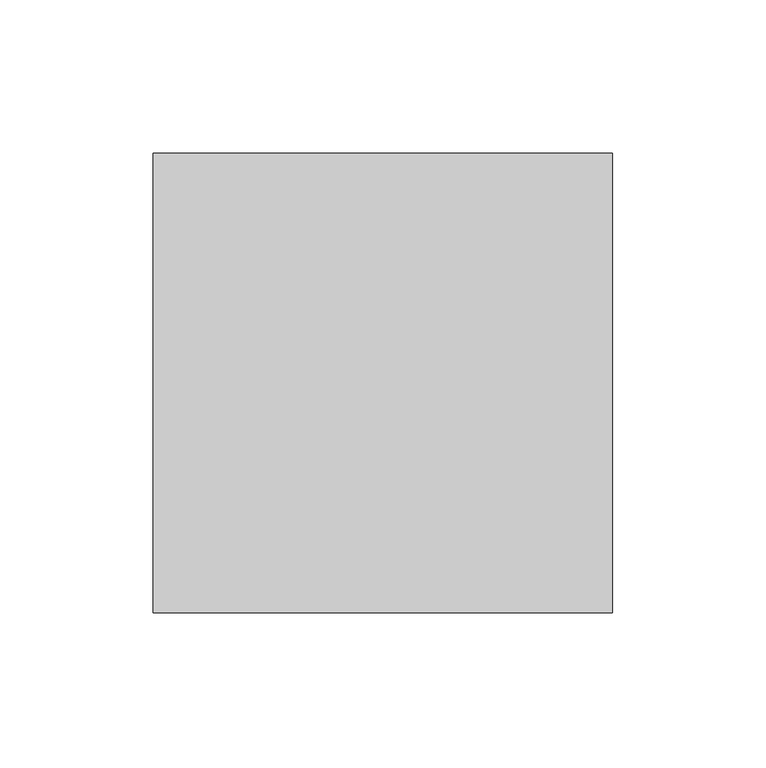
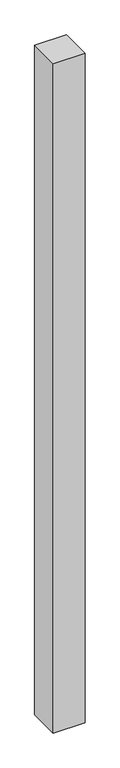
"""IFC4 building model written with IfcOpenShell, lengths in millimetres: member geometry, 四邊形角豎框 : 四邊形-鋁擠型料."""

from ifc_helpers import new_model, si_unit, frame, origin, place, context, project, spatial, polyline, outline, extrude, source, transform, mapped, element, save


def member_cc25a499(model_context):
    return source(origin(), model_context, "Body", "SweptSolid", [
        extrude(outline(polyline([(75.0, 75.0), (75.0, -75.0), (-75.0, -75.0), (-75.0, 75.0), (75.0, 75.0)])), frame((0.0, 0.0, -3330.0), z_axis=(0.0, 0.0, 1.0), x_axis=(1.0, 0.0, 0.0)), (0.0, 0.0, 1.0), 3330.0),
    ])


if __name__ == "__main__":
    model = new_model("IFC4")
    model_context = context("Model", 3, world=origin())
    ifc_project = project(units=[si_unit("LENGTHUNIT", "METRE", prefix="MILLI")], contexts=[model_context])
    site = spatial("IfcSite", under=ifc_project)
    building = spatial("IfcBuilding", under=site)
    placement = place(None, origin())
    member_shape = member_cc25a499(model_context)
    element("IfcMember", 1, ObjectType="四邊形角豎框 : 四邊形-鋁擠型料", at=placement, inside=building, context=model_context, shape_type="MappedRepresentation", body=[
        mapped(member_shape, transform((0.0, 0.0, 0.0), x_axis=(1.0, 0.0, 0.0), y_axis=(0.0, 1.0, 0.0), z_axis=(0.0, 0.0, 1.0))),
    ])
    save(model, "model.ifc")
